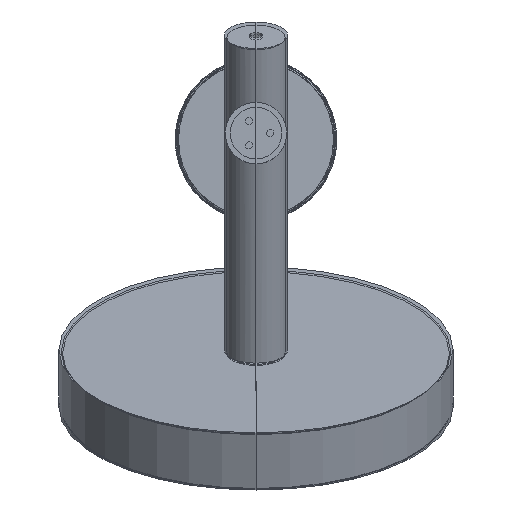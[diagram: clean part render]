
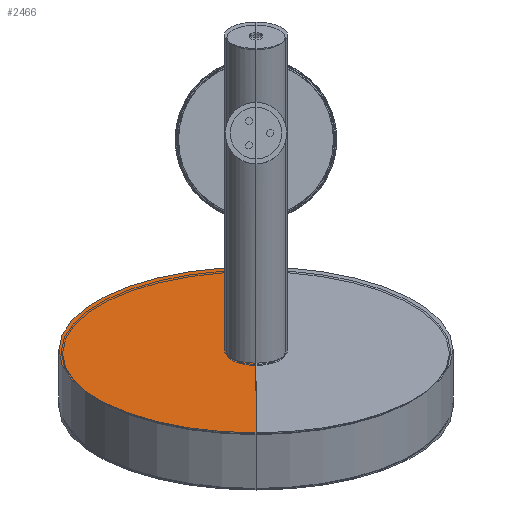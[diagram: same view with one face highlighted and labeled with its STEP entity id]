
A CAD part, top view. The second image highlights one B-rep face of the part: STEP entity #2466.
In plain terms, the highlighted planar face has unit normal (0, 0.906, 0.423) as drawn and (0, 0.906, -0.423) by its records, which use the part's own axes.
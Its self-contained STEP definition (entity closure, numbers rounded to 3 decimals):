
#198=PLANE('',#2754);
#320=LINE('',#5933,#463);
#321=LINE('',#5936,#464);
#463=VECTOR('',#3426,304.8);
#464=VECTOR('',#3429,304.8);
#640=FACE_OUTER_BOUND('',#810,.T.);
#810=EDGE_LOOP('',(#2174,#2175,#2176,#2177));
#1022=CIRCLE('',#2755,124.998);
#1023=CIRCLE('',#2756,19.998);
#1216=VERTEX_POINT('',#5929);
#1217=VERTEX_POINT('',#5930);
#1218=VERTEX_POINT('',#5932);
#1219=VERTEX_POINT('',#5934);
#1538=EDGE_CURVE('',#1216,#1217,#1022,.T.);
#1539=EDGE_CURVE('',#1218,#1216,#320,.T.);
#1540=EDGE_CURVE('',#1219,#1218,#1023,.T.);
#1541=EDGE_CURVE('',#1217,#1219,#321,.T.);
#2174=ORIENTED_EDGE('',*,*,#1538,.F.);
#2175=ORIENTED_EDGE('',*,*,#1539,.F.);
#2176=ORIENTED_EDGE('',*,*,#1540,.F.);
#2177=ORIENTED_EDGE('',*,*,#1541,.F.);
#2466=ADVANCED_FACE('',(#640),#198,.F.);
#2754=AXIS2_PLACEMENT_3D('',#5928,#3422,#3423);
#2755=AXIS2_PLACEMENT_3D('',#5931,#3424,#3425);
#2756=AXIS2_PLACEMENT_3D('',#5935,#3427,#3428);
#3422=DIRECTION('center_axis',(0.,-0.906,0.423));
#3423=DIRECTION('ref_axis',(0.,0.423,0.906));
#3424=DIRECTION('center_axis',(0.,-0.906,0.423));
#3425=DIRECTION('ref_axis',(0.,0.423,0.906));
#3426=DIRECTION('',(0.,-0.423,-0.906));
#3427=DIRECTION('center_axis',(0.,0.906,-0.423));
#3428=DIRECTION('ref_axis',(0.,0.423,0.906));
#3429=DIRECTION('',(0.,-0.423,-0.906));
#5928=CARTESIAN_POINT('Origin',(0.,-135.652,63.256));
#5929=CARTESIAN_POINT('',(0.,-188.479,-50.031));
#5930=CARTESIAN_POINT('',(0.,-82.826,176.542));
#5931=CARTESIAN_POINT('Origin',(0.,-135.652,
63.256));
#5932=CARTESIAN_POINT('',(0.,-144.104,45.131));
#5933=CARTESIAN_POINT('',(0.,-144.104,45.131));
#5934=CARTESIAN_POINT('',(0.,-127.201,81.38));
#5935=CARTESIAN_POINT('Origin',(0.,-135.652,
63.256));
#5936=CARTESIAN_POINT('',(0.,-82.826,176.542));
